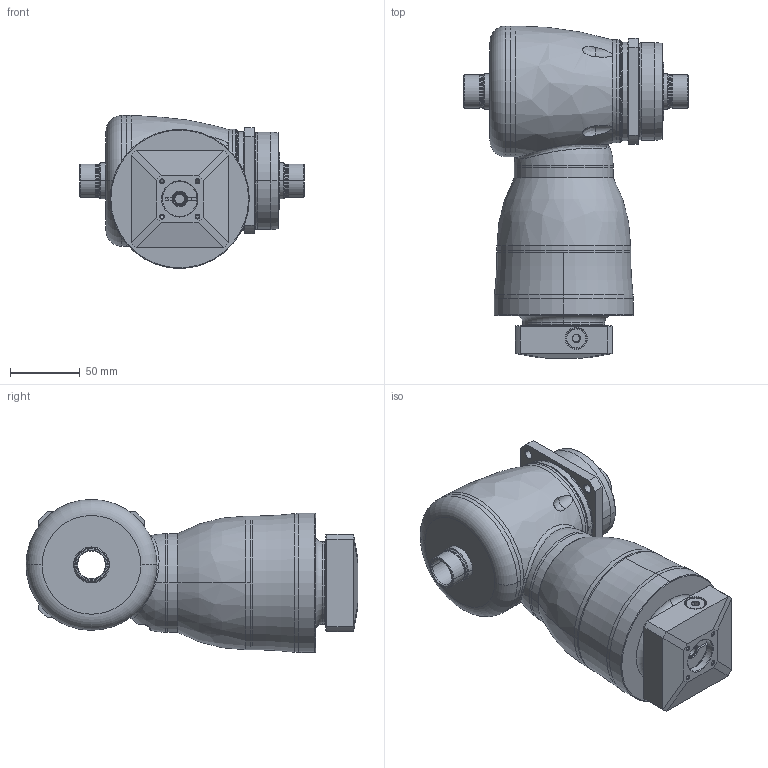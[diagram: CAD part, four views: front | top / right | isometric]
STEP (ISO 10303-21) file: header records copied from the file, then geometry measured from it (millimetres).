
FILE_DESCRIPTION((''),'2;1');
FILE_NAME('KF075_S4_2ST_8-P0409100101_ASM','2016-07-22T',('d01943'),(''),'PRO/ENGINEER BY PARAMETRIC TECHNOLOGY CORPORATION, 2008410','PRO/ENGINEER BY PARAMETRIC TECHNOLOGY CORPORATION, 2008410','');
FILE_SCHEMA(('CONFIG_CONTROL_DESIGN'));
Length unit declared in the file: millimetre
Products named in the file (11): P1008300002; P1804300001; P0914300001; P1315300001; P1007300001; P1317300001; P0409100101; P0503100005; P0912200001; 21711410012; KF075_S4_2ST_8-P0409100101_ASM
Assembly tree (10 placements, depth 2):
  KF075_S4_2ST_8-P0409100101_ASM
    P1008300002
    P1804300001
    P0914300001
    P1315300001
    P1007300001
    P1317300001
    P0409100101
    P0503100005
    P0912200001
    21711410012
Bounding box: 161 x 238.5 x 110 mm (x, y, z)
Volume: 1349305.6 mm3; surface area: 219077.7 mm2
Topology: 11 solids, 11 shells, 502 faces, 1163 edges, 697 vertices
Faces by surface type: cylinder 169, cone 114, plane 90, torus 78, bspline 49, sphere 2
Entity records: 22202 total; most frequent: CARTESIAN_POINT 10713, DIRECTION 2490, ORIENTED_EDGE 2282, EDGE_CURVE 1141, AXIS2_PLACEMENT_3D 1069, VERTEX_POINT 691, CIRCLE 595, EDGE_LOOP 570
